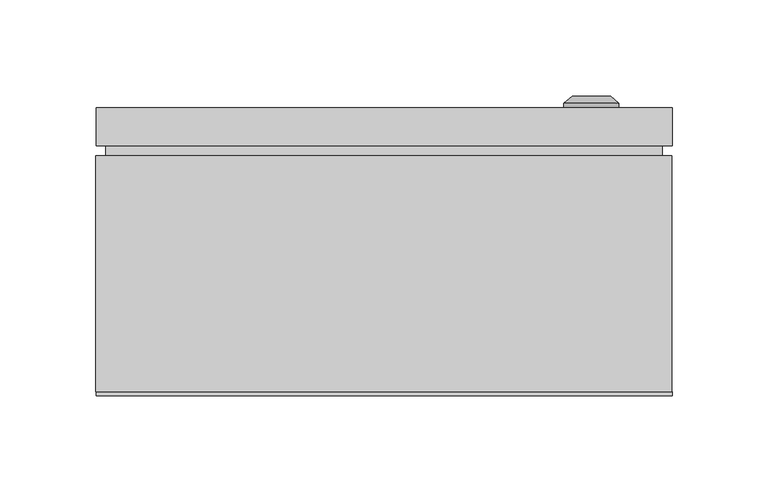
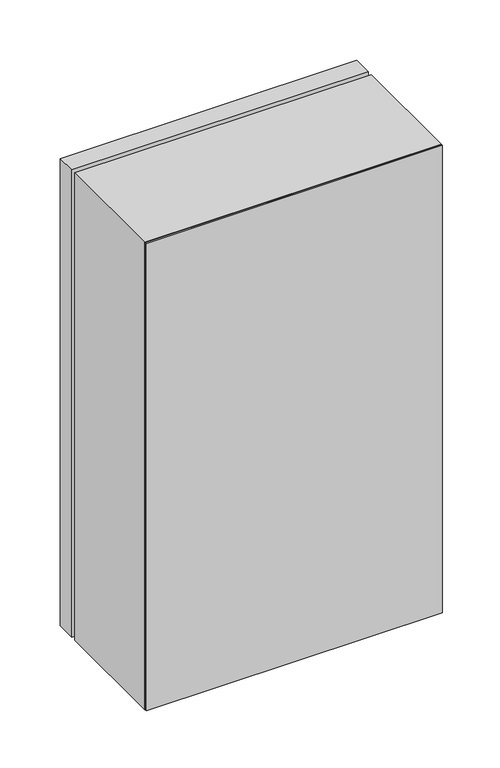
"""IFC4 building model written with IfcOpenShell, lengths in millimetres: proxy geometry, ЩМП_IP65 : ЩМП-5.3.15_500х300х150."""

from ifc_helpers import new_model, si_unit, frame, origin, origin_with_axes, place, context, project, spatial, polyline, circle_curve, outline, extrude, source, transform, mapped, element, save
from ifc_brep_helpers import plane_surface, cylinder_surface, revolved_surface, advanced_brep


def electrical_equipment_1401469c(model_context):
    return source(origin(), model_context, "Body", "SolidModel", [
        extrude(outline(polyline([(145.0, 125.0), (-145.0, 125.0), (-145.0, 130.0), (145.0, 130.0), (145.0, 125.0)])), frame((0.0, 0.0, 5.0), z_axis=(0.0, 0.0, 1.0), x_axis=(1.0, 0.0, 0.0)), (0.0, 0.0, 1.0), 490.0),
        extrude(outline(polyline([(150.0, 130.0), (-150.0, 130.0), (-150.0, 150.0), (150.0, 150.0), (150.0, 130.0)])), origin_with_axes(), (0.0, 0.0, 1.0), 500.0),
        advanced_brep(
        [(93.669873, 150.0, 245.0), (122.330127, 150.0, 245.0), (108.0, 150.0, 245.0), (93.669873, 152.366592, 245.0), (122.330127, 152.366592, 245.0), (98.0, 156.0, 245.0), (118.0, 156.0, 245.0), (106.1080471, 156.0, 245.0), (109.8919529, 156.0, 245.0), (106.1080471, 154.9822294, 245.0), (109.8919529, 154.9822294, 245.0), (108.0, 154.9822294, 245.0)],
        [
            (0, 1, circle_curve(frame((108.0, 150.0, 245.0), z_axis=(0.0, -1.0, 0.0), x_axis=(1.0, 0.0, 0.0)), 14.330127)),
            (1, 2),
            (2, 0),
            (1, 0, circle_curve(frame((108.0, 150.0, 245.0), z_axis=(0.0, -1.0, 0.0), x_axis=(1.0, 0.0, 0.0)), 14.330127)),
            (3, 4, circle_curve(frame((108.0, 152.366592, 245.0), z_axis=(0.0, -1.0, 0.0), x_axis=(1.0, 0.0, 0.0)), 14.330127)),
            (4, 1),
            (0, 3),
            (4, 3, circle_curve(frame((108.0, 152.366592, 245.0), z_axis=(0.0, -1.0, 0.0), x_axis=(1.0, 0.0, 0.0)), 14.330127)),
            (5, 6, circle_curve(frame((108.0, 156.0, 245.0), z_axis=(0.0, -1.0, 0.0), x_axis=(1.0, 0.0, 0.0)), 10.0)),
            (6, 4),
            (3, 5),
            (6, 5, circle_curve(frame((108.0, 156.0, 245.0), z_axis=(0.0, -1.0, 0.0), x_axis=(1.0, 0.0, 0.0)), 10.0)),
            (7, 8, circle_curve(frame((108.0, 156.0, 245.0), z_axis=(0.0, -1.0, 0.0), x_axis=(1.0, 0.0, 0.0)), 1.8919529)),
            (8, 6),
            (5, 7),
            (8, 7, circle_curve(frame((108.0, 156.0, 245.0), z_axis=(0.0, -1.0, 0.0), x_axis=(1.0, 0.0, 0.0)), 1.8919529)),
            (9, 10, circle_curve(frame((108.0, 154.9822294, 245.0), z_axis=(0.0, -1.0, 0.0), x_axis=(1.0, 0.0, 0.0)), 1.8919529)),
            (10, 8),
            (7, 9),
            (10, 9, circle_curve(frame((108.0, 154.9822294, 245.0), z_axis=(0.0, -1.0, 0.0), x_axis=(1.0, 0.0, 0.0)), 1.8919529)),
            (11, 10),
            (9, 11),
        ],
        [
            plane_surface(frame((108.0, 150.0, 245.0), z_axis=(0.0, -1.0, 0.0), x_axis=(1.0, 0.0, 0.0))),
            cylinder_surface(frame((108.0, 163.1348851, 245.0), z_axis=(0.0, 1.0, 0.0), x_axis=(1.0, 0.0, 0.0)), 14.330127),
            revolved_surface(polyline([(122.330127, 152.366592, 245.0), (118.0, 156.0, 245.0)]), (108.0, 163.1348851, 245.0), (0.0, 1.0, 0.0)),
            plane_surface(frame((108.0, 156.0, 245.0), z_axis=(0.0, 1.0, 0.0), x_axis=(1.0, 0.0, 0.0))),
            revolved_surface(polyline([(109.8919529, 156.0, 245.0), (109.8919529, 154.9822294, 245.0)]), (108.0, 163.1348851, 245.0), (0.0, 1.0, 0.0)),
            plane_surface(frame((108.0, 154.9822294, 245.0), z_axis=(0.0, 1.0, 0.0), x_axis=(1.0, 0.0, 0.0))),
        ],
        [
            (0, [[1, 2, 3]]),
            (0, [[4, -3, -2]]),
            (1, [[5, 6, -1, 7]]),
            (1, [[8, -7, -4, -6]]),
            (2, [[9, 10, -5, 11]]),
            (2, [[12, -11, -8, -10]]),
            (3, [[13, 14, -9, 15]]),
            (3, [[16, -15, -12, -14]]),
            (4, [[17, 18, -13, 19]]),
            (4, [[20, -19, -16, -18]]),
            (5, [[21, -17, 22]]),
            (5, [[-22, -20, -21]]),
        ],
    ),
        extrude(outline(polyline([(500.0, -150.0033905), (0.0, -150.0033905), (0.0, 149.9966095), (500.0, 149.9966095), (500.0, -150.0033905)]), holes=[polyline([(465.0, -118.0033905), (465.0, 117.9966095), (25.0, 117.9966095), (25.0, -118.0033905), (465.0, -118.0033905)])]), frame((0.0, 2.0, 0.0), z_axis=(0.0, 1.0, 0.0), x_axis=(0.0, 0.0, 1.0)), (0.0, 0.0, 1.0), 123.0),
        extrude(outline(polyline([(150.0, 0.0), (-150.0, 0.0), (-150.0, 2.0), (150.0, 2.0), (150.0, 0.0)])), origin_with_axes(), (0.0, 0.0, 1.0), 500.0),
    ])


if __name__ == "__main__":
    model = new_model("IFC4")
    model_context = context("Model", 3, world=origin())
    ifc_project = project(units=[si_unit("LENGTHUNIT", "METRE", prefix="MILLI")], contexts=[model_context])
    site = spatial("IfcSite", under=ifc_project)
    building = spatial("IfcBuilding", under=site)
    placement = place(None, origin())
    electrical_equipment_shape = electrical_equipment_1401469c(model_context)
    element("IfcBuildingElementProxy", 1, Name="ЩМП_IP65 : ЩМП-5.3.15_500х300х150", ObjectType="ЩМП_IP65 : ЩМП-5.3.15_500х300х150", at=placement, inside=building, context=model_context, shape_type="MappedRepresentation", body=[
        mapped(electrical_equipment_shape, transform((0.0, 0.0, 0.0), x_axis=(1.0, 0.0, 0.0), y_axis=(0.0, 1.0, 0.0), z_axis=(0.0, 0.0, 1.0))),
    ])
    save(model, "model.ifc")
